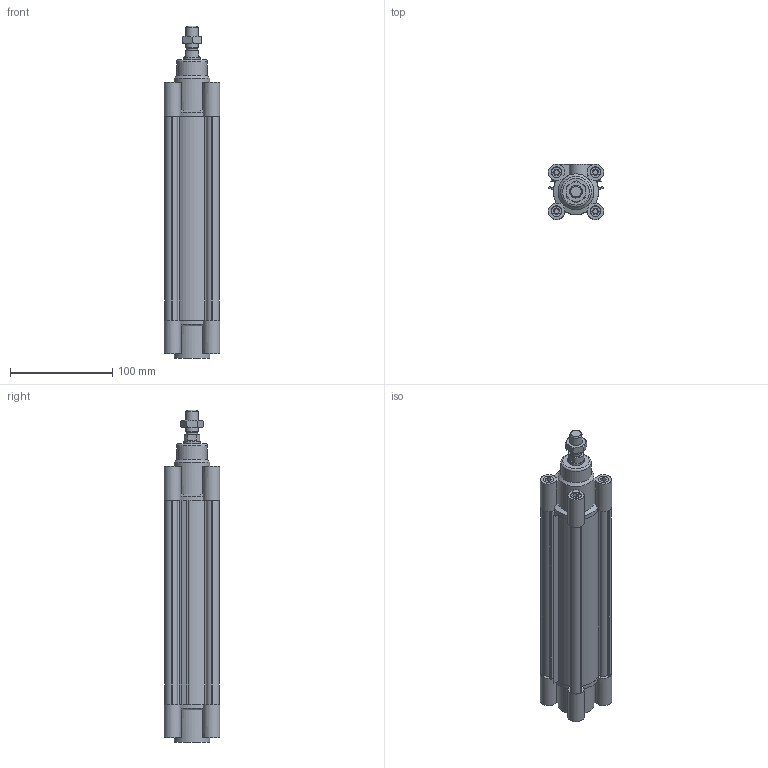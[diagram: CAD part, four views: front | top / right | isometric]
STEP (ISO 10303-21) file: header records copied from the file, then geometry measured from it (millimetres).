
FILE_DESCRIPTION((''),'2;1');
FILE_NAME('I:\Area Tecnica\Disegni\VARIE-3D\Componenti\ECOLIGHT\139#.##_0000_01\stp\139#_40_0160_01.iam.stp','2012-01-28T07:59:10',(''),(''),'Autodesk Inventor 2012','Autodesk Inventor 2012','');
FILE_SCHEMA(('AUTOMOTIVE_DESIGN { 1 0 10303 214 1 1 1 1 }'));
Length unit declared in the file: millimetre
Products named in the file (6): 139#_40_0160_01; CPL040_004-160; CPL040-001-01; CPL040-002-01; CPL_40_0160; 1320_40_18F
Assembly tree (5 placements, depth 2):
  139#_40_0160_01
    CPL040_004-160
    CPL040-001-01
    CPL040-002-01
    CPL_40_0160
    1320_40_18F
Bounding box: 54 x 54 x 324 mm (x, y, z)
Volume: 364593.3 mm3; surface area: 163503.2 mm2
Topology: 5 solids, 5 shells, 316 faces, 788 edges, 522 vertices
Faces by surface type: plane 200, cylinder 91, cone 24, torus 1
Full cylindrical faces by diameter (mm): 5 x8, 5.5 x4, 8 x2, 10 x8, 10.5 x9, 10.8 x1, 11.6 x2, 12 x1, 15.5 x1, 16 x2, 30 x1, 35 x2, 40 x4
Entity records: 9416 total; most frequent: CARTESIAN_POINT 1761, DIRECTION 1538, ORIENTED_EDGE 1442, EDGE_CURVE 721, AXIS2_PLACEMENT_3D 544, VERTEX_POINT 507, VECTOR 450, LINE 450
